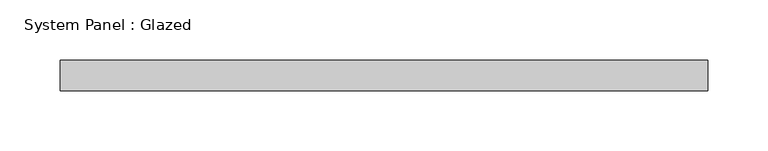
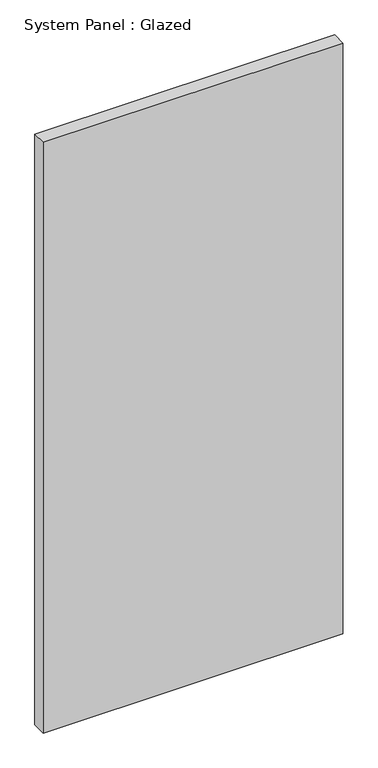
"""IFC4 building model written with IfcOpenShell, lengths in millimetres: plate geometry, System Panel : Glazed."""

from ifc_helpers import new_model, si_unit, origin, origin_with_axes, place, context, project, spatial, polyline, outline, extrude, source, transform, mapped, element, save


def system_panel_glazed_d0ecad2d(model_context):
    return source(origin(), model_context, "Body", "SweptSolid", [
        extrude(outline(polyline([(269.875, -44.45), (-269.875, -44.45), (-269.875, -19.05), (269.875, -19.05), (269.875, -44.45)])), origin_with_axes(), (0.0, 0.0, 1.0), 1123.95),
    ])


if __name__ == "__main__":
    model = new_model("IFC4")
    model_context = context("Model", 3, world=origin())
    ifc_project = project(units=[si_unit("LENGTHUNIT", "METRE", prefix="MILLI")], contexts=[model_context])
    site = spatial("IfcSite", under=ifc_project)
    building = spatial("IfcBuilding", under=site)
    placement = place(None, origin())
    system_panel_glazed_shape = system_panel_glazed_d0ecad2d(model_context)
    element("IfcPlate", 1, ObjectType="System Panel : Glazed", at=placement, inside=building, context=model_context, shape_type="MappedRepresentation", body=[
        mapped(system_panel_glazed_shape, transform((0.0, 0.0, 0.0), x_axis=(1.0, 0.0, 0.0), y_axis=(0.0, 1.0, 0.0), z_axis=(0.0, 0.0, 1.0))),
    ])
    save(model, "model.ifc")
